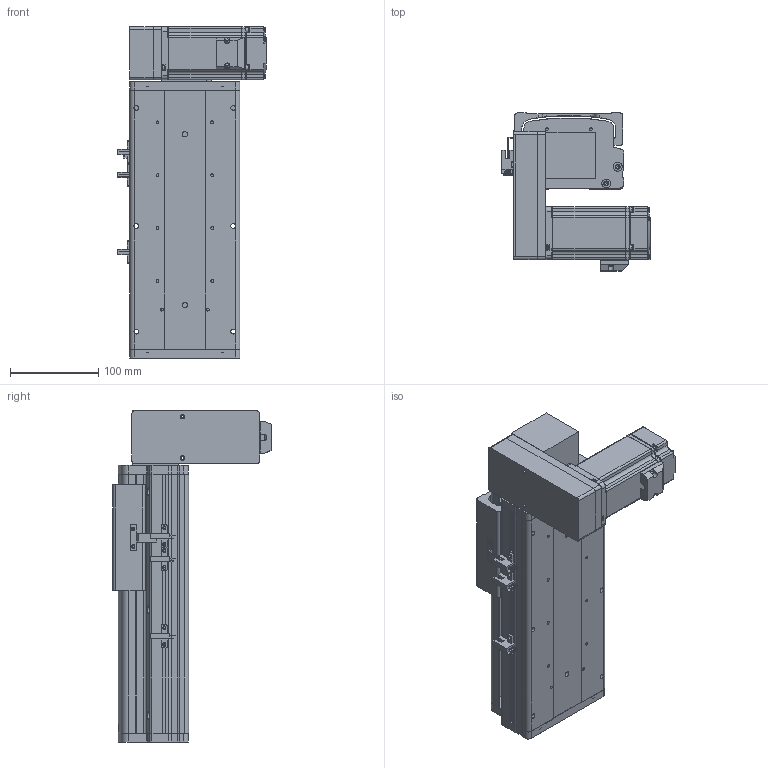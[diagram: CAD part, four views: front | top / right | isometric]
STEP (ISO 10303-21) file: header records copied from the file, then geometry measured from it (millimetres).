
FILE_DESCRIPTION (( 'STEP AP214' ), '1' );
FILE_NAME ('KSD125B-S100-MRD-CM.STEP', '2017-10-21T05:54:30', ( '微软用户' ), ( '微软中国' ), 'SwSTEP 2.0', 'SolidWorks 2014', '' );
FILE_SCHEMA (( 'AUTOMOTIVE_DESIGN' ));
Length unit declared in the file: millimetre
Products named in the file (17): 100宽马达安装板连板上下折丝杆同步带; KSD125模组100行程同步带-防尘盖; 125模组100行程同步带-底板; MHMD042G1CA_2_03; KSD125模组同步带-防撞垫2; 覜茼え68遵圉猾敕; U倰嫖萇假蚾璃; U倰嫖萇EEㄜSX672; KSD125模组同步带-防撞垫1; 100宽马达安装板同步带右; 前端板-125宽模组同步带; 125模组同步带-尾端板1; KSD125模组同步带-滑动座1; KSD125B-S100-MRD-CM; 悵誘欶奻狟殏; HTPA30S3M150_A_H6_a佪裝蚚; HTPA30S3M150_A_H6_a萇儂蚚
Assembly tree (20 placements, depth 2):
  KSD125B-S100-MRD-CM
    KSD125模组同步带-滑动座1
    125模组同步带-尾端板1
    前端板-125宽模组同步带
    100宽马达安装板同步带右
    KSD125模组同步带-防撞垫1
    U倰嫖萇EEㄜSX672  x3
    U倰嫖萇假蚾璃  x3
    覜茼え68遵圉猾敕
    KSD125模组同步带-防撞垫2
    MHMD042G1CA_2_03
    125模组100行程同步带-底板
    KSD125模组100行程同步带-防尘盖
    100宽马达安装板连板上下折丝杆同步带
    HTPA30S3M150_A_H6_a萇儂蚚
    HTPA30S3M150_A_H6_a佪裝蚚
    悵誘欶奻狟殏
Bounding box: 168.7 x 179.5 x 377 mm (x, y, z)
Volume: 1523788.2 mm3; surface area: 563342 mm2
Topology: 19 solids, 22 shells, 2181 faces, 6307 edges, 4166 vertices
Faces by surface type: cylinder 1340, plane 714, cone 105, bspline 22
Entity records: 76901 total; most frequent: CARTESIAN_POINT 15249, DIRECTION 11972, ORIENTED_EDGE 11134, EDGE_CURVE 5645, AXIS2_PLACEMENT_3D 4605, VERTEX_POINT 3758, VECTOR 2762, LINE 2762
